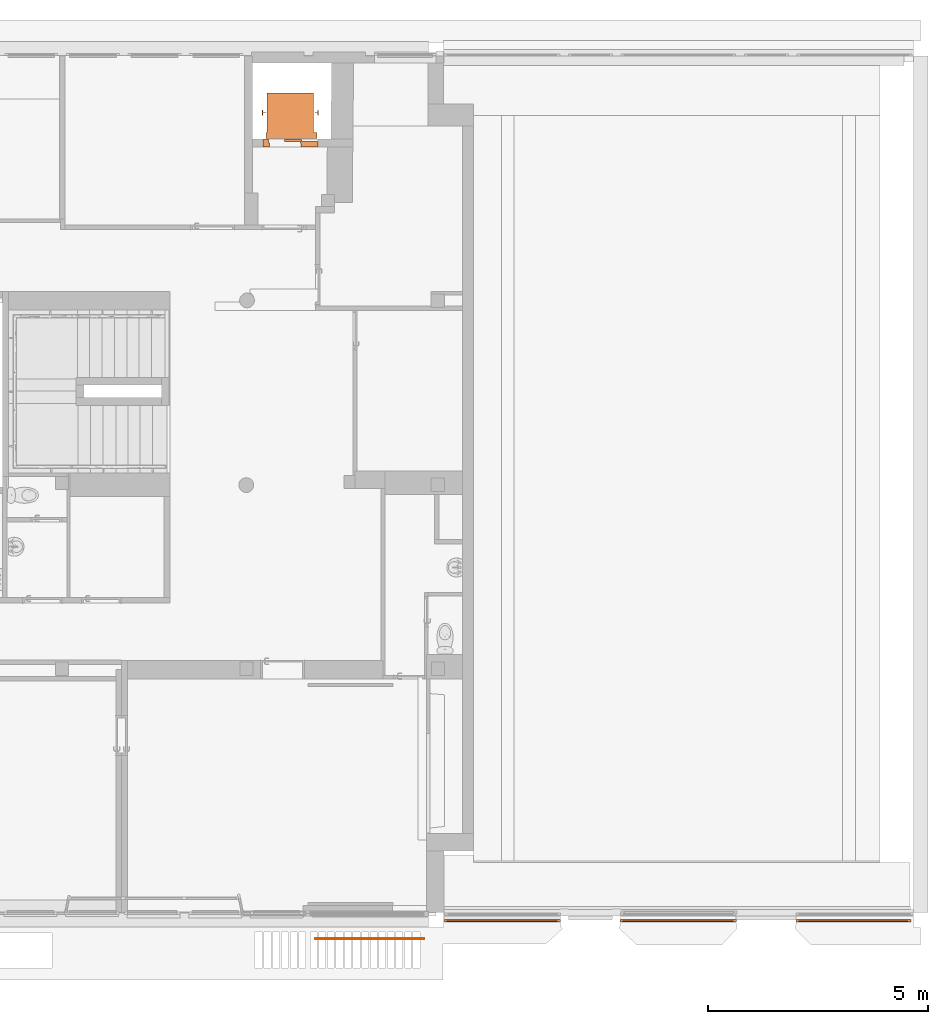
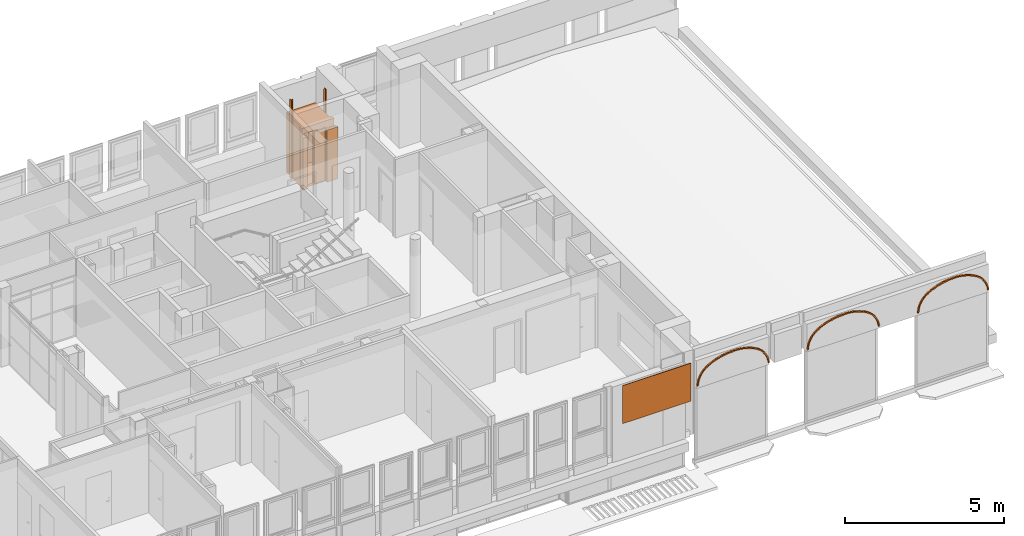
# One storey, part 97 of 97: 3 proxies.
"""IFC4 building model written with IfcOpenShell, lengths in metres."""

from ifc_helpers import new_model, entity, si_unit, converted_unit, derived_unit, direction, frame, origin, place, context, subcontext, project, spatial, indexed_curve, outline, extrude, polygons, source, transform, mapped, material, type_object, type_shapes, element, save


model = new_model("IFC4")

# Units and contexts
model_context = context("Model", 3, precision=1e-05, world=origin(), true_north=direction((6.12303176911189e-17, 1.0)))
body_context = subcontext(model_context, "Body", "Model", "MODEL_VIEW")
ifc_project = project(units=[si_unit("LENGTHUNIT", "METRE"), si_unit("AREAUNIT", "SQUARE_METRE"), si_unit("VOLUMEUNIT", "CUBIC_METRE"), converted_unit("PLANEANGLEUNIT", "DEGREE", entity("IfcRatioMeasure", 0.0174532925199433), si_unit("PLANEANGLEUNIT", "RADIAN"), dimensions=[0, 0, 0, 0, 0, 0, 0]), si_unit("MASSUNIT", "GRAM", prefix="KILO"), derived_unit("MASSDENSITYUNIT", [(si_unit("MASSUNIT", "GRAM", prefix="KILO"), 1), (si_unit("LENGTHUNIT", "METRE"), -3)]), derived_unit("MOMENTOFINERTIAUNIT", [(si_unit("LENGTHUNIT", "METRE"), 4)]), si_unit("TIMEUNIT", "SECOND"), si_unit("FREQUENCYUNIT", "HERTZ"), si_unit("THERMODYNAMICTEMPERATUREUNIT", "DEGREE_CELSIUS"), derived_unit("THERMALTRANSMITTANCEUNIT", [(si_unit("MASSUNIT", "GRAM", prefix="KILO"), 1), (si_unit("THERMODYNAMICTEMPERATUREUNIT", "KELVIN"), -1), (si_unit("TIMEUNIT", "SECOND"), -3)]), derived_unit("VOLUMETRICFLOWRATEUNIT", [(si_unit("LENGTHUNIT", "METRE"), 3), (si_unit("TIMEUNIT", "SECOND"), -1)]), si_unit("ELECTRICCURRENTUNIT", "AMPERE"), si_unit("ELECTRICVOLTAGEUNIT", "VOLT"), si_unit("POWERUNIT", "WATT"), si_unit("FORCEUNIT", "NEWTON", prefix="KILO"), si_unit("ILLUMINANCEUNIT", "LUX"), si_unit("LUMINOUSFLUXUNIT", "LUMEN"), si_unit("LUMINOUSINTENSITYUNIT", "CANDELA"), derived_unit("USERDEFINED", [(si_unit("MASSUNIT", "GRAM", prefix="KILO"), -1), (si_unit("LENGTHUNIT", "METRE"), -2), (si_unit("TIMEUNIT", "SECOND"), 3), (si_unit("LUMINOUSFLUXUNIT", "LUMEN"), 1)]), derived_unit("LINEARVELOCITYUNIT", [(si_unit("LENGTHUNIT", "METRE"), 1), (si_unit("TIMEUNIT", "SECOND"), -1)]), si_unit("PRESSUREUNIT", "PASCAL"), derived_unit("USERDEFINED", [(si_unit("LENGTHUNIT", "METRE"), -2), (si_unit("MASSUNIT", "GRAM", prefix="KILO"), 1), (si_unit("TIMEUNIT", "SECOND"), -2)]), derived_unit("LINEARFORCEUNIT", [(si_unit("MASSUNIT", "GRAM", prefix="KILO"), 1), (si_unit("LENGTHUNIT", "METRE"), 1), (si_unit("TIMEUNIT", "SECOND"), -2), (si_unit("LENGTHUNIT", "METRE"), -1)]), derived_unit("PLANARFORCEUNIT", [(si_unit("MASSUNIT", "GRAM", prefix="KILO"), 1), (si_unit("LENGTHUNIT", "METRE"), 1), (si_unit("TIMEUNIT", "SECOND"), -2), (si_unit("LENGTHUNIT", "METRE"), -2)])], contexts=[model_context])

# Site, building, storey
site_placement = place(None, origin())
site = spatial("IfcSite", under=ifc_project, at=site_placement, Name="Default", CompositionType="ELEMENT")
building_placement = place(site_placement, origin())
building = spatial("IfcBuilding", under=site, at=building_placement, Name="HOTEL CONSULAIRE BOULOGNE SUR MER", CompositionType="ELEMENT")
storey_placement = place(building_placement, frame((0.0, 0.0, 3.62152697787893)))
storey = spatial("IfcBuildingStorey", under=building, at=storey_placement, Name="Niveau 1", CompositionType="ELEMENT", Elevation=3.62152697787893)

# Proxies
ifc_material_1 = material(Name="<Unnamed>")
building_element_proxy_type_1 = type_object("IfcBuildingElementProxyType", Name="Ascenseur 4 personnes - Mur:1000 x 880mm", PredefinedType="NOTDEFINED", material=ifc_material_1)
shared_shape_1 = source(origin(), body_context, "Body", "Tessellation", [
    polygons([(-0.400000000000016, -1.1400000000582, 2.222), (0.649999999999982, -1.14000000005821, 2.222), (0.649999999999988, -0.235000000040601, 2.222), (0.68100000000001, -0.235000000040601, 2.222), (0.681000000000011, -0.105000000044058, 2.222), (-0.486499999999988, -0.105000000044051, 2.222), (-0.486499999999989, -0.235000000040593, 2.222), (-0.40000000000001, -0.235000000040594, 2.222), (-0.400000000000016, -1.1400000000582, 2.2), (-0.40000000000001, -0.235000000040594, 2.2), (-0.486499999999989, -0.235000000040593, 2.2), (-0.486499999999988, -0.105000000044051, 2.2), (0.681000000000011, -0.105000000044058, 2.2), (0.68100000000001, -0.235000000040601, 2.2), (0.649999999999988, -0.235000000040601, 2.2), (0.649999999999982, -1.14000000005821, 2.2)], [[[8, 1, 2, 3, 4, 5, 6, 7]], [[15, 16, 9, 10, 11, 12, 13, 14]], [[2, 1, 9, 16]], [[4, 3, 15, 14]], [[8, 7, 11, 10]], [[3, 2, 16, 15]], [[5, 4, 14, 13]], [[6, 5, 13, 12]], [[7, 6, 12, 11]], [[1, 8, 10, 9]]], closed=True),
    polygons([(-0.400000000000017, -1.1400000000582, 0.0), (0.64999999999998, -1.14000000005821, 0.0), (0.649999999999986, -0.235000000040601, 0.0), (0.68100000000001, -0.235000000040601, 0.0), (0.681000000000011, -0.105000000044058, 0.0), (-0.486499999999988, -0.105000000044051, 0.0), (-0.486499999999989, -0.235000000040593, 0.0), (-0.400000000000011, -0.235000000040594, 0.0), (-0.400000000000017, -1.1400000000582, -0.09), (-0.400000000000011, -0.235000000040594, -0.09), (-0.486499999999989, -0.235000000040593, -0.09), (-0.486499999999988, -0.105000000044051, -0.09), (0.681000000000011, -0.105000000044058, -0.09), (0.68100000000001, -0.235000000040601, -0.09), (0.649999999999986, -0.235000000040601, -0.09), (0.64999999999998, -1.14000000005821, -0.09)], [[[8, 1, 2, 3, 4, 5, 6, 7]], [[15, 16, 9, 10, 11, 12, 13, 14]], [[2, 1, 9, 16]], [[4, 3, 15, 14]], [[8, 7, 11, 10]], [[3, 2, 16, 15]], [[5, 4, 14, 13]], [[6, 5, 13, 12]], [[7, 6, 12, 11]], [[1, 8, 10, 9]]], closed=True),
    polygons([(-0.400000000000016, -1.1400000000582, 2.2), (0.649999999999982, -1.14000000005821, 2.2), (0.649999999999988, -0.235000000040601, 2.2), (0.68100000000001, -0.235000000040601, 2.2), (0.681000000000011, -0.105000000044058, 2.2), (-0.486499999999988, -0.105000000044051, 2.2), (-0.486499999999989, -0.235000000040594, 2.2), (-0.40000000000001, -0.235000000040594, 2.2), (-0.375000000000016, -1.1150000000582, 2.2), (-0.375000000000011, -0.235000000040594, 2.2), (-0.110300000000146, -0.235000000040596, 2.2), (-0.110300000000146, -0.197000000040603, 2.2), (-0.458122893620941, -0.197000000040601, 2.2), (-0.45812289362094, -0.108958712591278, 2.2), (0.621169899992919, -0.108958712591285, 2.2), (0.621169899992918, -0.192683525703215, 2.2), (0.59999999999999, -0.192683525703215, 2.2), (0.599999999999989, -0.235000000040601, 2.2), (0.624999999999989, -0.235000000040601, 2.2), (0.624999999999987, -0.57250164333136, 2.2), (0.610245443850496, -0.572501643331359, 2.2), (0.610245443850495, -0.802501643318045, 2.2), (0.624999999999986, -0.802501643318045, 2.2), (0.624999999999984, -1.11500000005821, 2.2), (-0.400000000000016, -1.1400000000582, 0.0), (-0.40000000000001, -0.235000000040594, 0.0), (-0.486499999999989, -0.235000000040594, 0.0), (-0.486499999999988, -0.105000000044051, 0.0), (-0.173443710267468, -0.105000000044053, 0.0), (-0.173443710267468, -0.10895871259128, 0.0), (-0.45812289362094, -0.108958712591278, 0.0), (-0.458122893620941, -0.197000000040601, 0.0), (-0.110300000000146, -0.197000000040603, 0.0), (-0.110300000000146, -0.235000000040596, 0.0), (-0.375000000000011, -0.235000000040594, 0.0), (-0.375000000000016, -1.1150000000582, 0.0), (0.624999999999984, -1.11500000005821, 0.0), (0.624999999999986, -0.802501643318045, 0.0), (0.610245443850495, -0.802501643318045, 0.0), (0.610245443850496, -0.572501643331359, 0.0), (0.624999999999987, -0.57250164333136, 0.0), (0.624999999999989, -0.235000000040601, 0.0), (0.599999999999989, -0.235000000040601, 0.0), (0.59999999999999, -0.192683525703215, 0.0), (0.621169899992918, -0.192683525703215, 0.0), (0.621169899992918, -0.105000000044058, 0.0), (0.681000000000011, -0.105000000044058, 0.0), (0.68100000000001, -0.235000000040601, 0.0), (0.649999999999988, -0.235000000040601, 0.0), (0.649999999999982, -1.14000000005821, 0.0), (0.621169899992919, -0.105000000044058, 2.0), (-0.173443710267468, -0.105000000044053, 2.0), (-0.173443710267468, -0.10895871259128, 2.0), (0.621169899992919, -0.108958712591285, 2.0), (0.59999999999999, -0.192683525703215, 2.0)], [[[9, 10, 11, 12, 13, 14, 15, 16, 17, 18, 19, 20, 21, 22, 23, 24], [1, 2, 3, 4, 5, 6, 7, 8]], [[50, 25, 26, 27, 28, 29, 30, 31, 32, 33, 34, 35, 36, 37, 38, 39, 40, 41, 42, 43, 44, 45, 46, 47, 48, 49]], [[51, 54, 53, 52]], [[2, 1, 25, 50]], [[4, 3, 49, 48]], [[8, 7, 27, 26]], [[11, 10, 35, 34]], [[54, 15, 14, 31, 30, 53]], [[19, 18, 43, 42]], [[23, 22, 39, 38]], [[3, 2, 50, 49]], [[5, 4, 48, 47]], [[10, 9, 36, 35]], [[12, 11, 34, 33]], [[14, 13, 32, 31]], [[52, 53, 30, 29]], [[5, 47, 46, 51, 52, 29, 28, 6]], [[13, 12, 33, 32]], [[17, 16, 45, 44, 55]], [[21, 20, 41, 40]], [[9, 24, 37, 36]], [[7, 6, 28, 27]], [[1, 8, 26, 25]], [[54, 51, 46, 45, 16, 15]], [[18, 17, 55, 44, 43]], [[20, 19, 42, 41]], [[22, 21, 40, 39]], [[24, 23, 38, 37]]], closed=True),
    polygons([(-0.497026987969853, -0.693801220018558, 0.0), (-0.500026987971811, -0.75100121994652, 0.0), (-0.513026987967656, -0.75100121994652, 0.0), (-0.513026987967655, -0.624001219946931, 0.0), (-0.500026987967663, -0.624001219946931, 0.0), (-0.497113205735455, -0.681305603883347, 0.0), (-0.432026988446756, -0.681305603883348, 0.0), (-0.432026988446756, -0.693801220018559, 0.0), (-0.497026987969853, -0.693801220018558, 3.0), (-0.432026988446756, -0.693801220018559, 3.0), (-0.432026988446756, -0.681305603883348, 3.0), (-0.497113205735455, -0.681305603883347, 3.0), (-0.500026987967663, -0.624001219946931, 3.0), (-0.513026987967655, -0.624001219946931, 3.0), (-0.513026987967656, -0.75100121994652, 3.0), (-0.500026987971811, -0.75100121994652, 3.0)], [[[8, 1, 2, 3, 4, 5, 6, 7]], [[14, 15, 16, 9, 10, 11, 12, 13]], [[10, 9, 1, 8]], [[16, 15, 3, 2]], [[11, 10, 8, 7]], [[12, 11, 7, 6]], [[14, 13, 5, 4]], [[13, 12, 6, 5]], [[15, 14, 4, 3]], [[9, 16, 2, 1]]], closed=True),
    polygons([(0.750026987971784, -0.751001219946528, 3.0), (0.763026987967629, -0.751001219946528, 3.0), (0.76302698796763, -0.624001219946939, 3.0), (0.750026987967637, -0.624001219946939, 3.0), (0.747113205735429, -0.681305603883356, 3.0), (0.682026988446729, -0.681305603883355, 3.0), (0.682026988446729, -0.693801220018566, 3.0), (0.747026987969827, -0.693801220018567, 3.0), (0.750026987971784, -0.751001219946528, 0.0), (0.747026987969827, -0.693801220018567, 0.0), (0.682026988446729, -0.693801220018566, 0.0), (0.682026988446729, -0.681305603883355, 0.0), (0.747113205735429, -0.681305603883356, 0.0), (0.750026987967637, -0.624001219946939, 0.0), (0.76302698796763, -0.624001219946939, 0.0), (0.763026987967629, -0.751001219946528, 0.0)], [[[7, 8, 1, 2, 3, 4, 5, 6]], [[15, 16, 9, 10, 11, 12, 13, 14]], [[2, 1, 9, 16]], [[8, 7, 11, 10]], [[3, 2, 16, 15]], [[4, 3, 15, 14]], [[6, 5, 13, 12]], [[5, 4, 14, 13]], [[7, 6, 12, 11]], [[1, 8, 10, 9]]], closed=True),
    polygons([(-0.48862205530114, 0.00838938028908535, 0.0), (-0.10262205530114, 0.00838938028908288, 0.0), (-0.10262205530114, -0.0306106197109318, 0.0), (-0.48862205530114, -0.0306106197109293, 0.0), (-0.48862205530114, 0.00838938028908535, 2.0), (-0.48862205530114, -0.0306106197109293, 2.0), (-0.10262205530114, -0.0306106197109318, 2.0), (-0.10262205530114, 0.00838938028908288, 2.0)], [[[2, 3, 4, 1]], [[5, 6, 7, 8]], [[6, 5, 1, 4]], [[7, 6, 4, 3]], [[8, 7, 3, 2]], [[5, 8, 2, 1]]], closed=True),
    polygons([(-0.114830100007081, -0.144000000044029, 2.0), (0.271169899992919, -0.144000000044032, 2.0), (0.271169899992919, -0.108958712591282, 2.0), (-0.114830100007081, -0.108958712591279, 2.0), (-0.114830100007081, -0.144000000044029, 0.0), (-0.114830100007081, -0.108958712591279, 0.0), (0.271169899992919, -0.108958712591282, 0.0), (0.271169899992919, -0.144000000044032, 0.0)], [[[4, 1, 2, 3]], [[7, 8, 5, 6]], [[2, 1, 5, 8]], [[3, 2, 8, 7]], [[4, 3, 7, 6]], [[1, 4, 6, 5]]], closed=True),
    polygons([(-0.448622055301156, -0.190989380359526, 0.0), (-0.448622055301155, -0.149389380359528, 0.0), (-0.0626220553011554, -0.14938938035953, 0.0), (-0.0626220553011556, -0.190989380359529, 0.0), (-0.448622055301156, -0.190989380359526, 2.0), (-0.0626220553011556, -0.190989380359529, 2.0), (-0.0626220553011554, -0.14938938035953, 2.0), (-0.448622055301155, -0.149389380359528, 2.0)], [[[3, 4, 1, 2]], [[8, 5, 6, 7]], [[6, 5, 1, 4]], [[7, 6, 4, 3]], [[8, 7, 3, 2]], [[5, 8, 2, 1]]], closed=True),
    polygons([(-0.124830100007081, -0.0750000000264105, 0.0), (-0.124830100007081, -0.0360000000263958, 0.0), (0.261169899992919, -0.0360000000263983, 0.0), (0.261169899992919, -0.075000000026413, 0.0), (-0.124830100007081, -0.0750000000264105, 2.0), (0.261169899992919, -0.075000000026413, 2.0), (0.261169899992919, -0.0360000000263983, 2.0), (-0.124830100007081, -0.0360000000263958, 2.0)], [[[3, 4, 1, 2]], [[8, 5, 6, 7]], [[6, 5, 1, 4]], [[7, 6, 4, 3]], [[8, 7, 3, 2]], [[5, 8, 2, 1]]], closed=True),
    polygons([(0.599999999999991, 0.00499999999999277, 0.0), (0.599999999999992, 0.0900000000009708, 0.0), (0.750000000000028, 0.0900000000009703, 0.0), (0.750000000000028, -0.075000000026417, 0.0), (0.621169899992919, -0.0750000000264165, 0.0), (0.621169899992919, 0.0049999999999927, 0.0), (0.599999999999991, 0.00499999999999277, 2.0), (0.621169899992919, 0.0049999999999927, 2.0), (0.621169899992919, -0.0750000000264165, 2.0), (0.750000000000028, -0.075000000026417, 2.0), (0.750000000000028, 0.0900000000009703, 2.0), (0.599999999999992, 0.0900000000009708, 2.0)], [[[6, 1, 2, 3, 4, 5]], [[10, 11, 12, 7, 8, 9]], [[8, 7, 1, 6]], [[10, 9, 5, 4]], [[9, 8, 6, 5]], [[7, 12, 2, 1]], [[11, 10, 4, 3]], [[12, 11, 3, 2]]], closed=True),
    polygons([(-0.114979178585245, 0.0899999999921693, 2.0), (-0.505006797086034, 0.0900000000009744, 2.0), (-0.505006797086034, 0.0144785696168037, 2.0), (-0.114979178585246, 0.0144785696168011, 2.0), (-0.114979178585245, 0.0899999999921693, 0.0), (-0.114979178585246, 0.0144785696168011, 0.0), (-0.505006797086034, 0.0144785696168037, 0.0), (-0.505006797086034, 0.0900000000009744, 0.0)], [[[4, 1, 2, 3]], [[7, 8, 5, 6]], [[2, 1, 5, 8]], [[3, 2, 8, 7]], [[4, 3, 7, 6]], [[1, 4, 6, 5]]], closed=True),
])
type_shapes(building_element_proxy_type_1, [shared_shape_1])
proxy_1_placement = place(storey_placement, frame((8.28998026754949, -12.0607913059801, 0.0), z_axis=(0.0, 0.0, 1.0), x_axis=(-1.0, 0.0, 0.0)))
element("IfcBuildingElementProxy", 1, at=proxy_1_placement, inside=storey, type_object=building_element_proxy_type_1, Name="Ascenseur 4 personnes - Mur:1000 x 880mm", ObjectType="Ascenseur 4 personnes - Mur:1000 x 880mm", PredefinedType="NOTDEFINED", context=body_context, shape_type="MappedRepresentation", body=[
    mapped(shared_shape_1, transform((0.0, 0.0, 0.0), scale=1.0)),
])
ifc_material_2 = material(Name="peinture bleu")
building_element_proxy_type_2 = type_object("IfcBuildingElementProxyType", Name="demi cercle decoratif:demi cercle decoratif", PredefinedType="NOTDEFINED", material=ifc_material_2)
shared_shape_2 = source(origin(), body_context, "Body", "SweptSolid", [
    extrude(outline(indexed_curve([(1.27333765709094, -0.444147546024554), (1.32364586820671, -0.444147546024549), (1.31104823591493, -0.362169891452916), (1.29117038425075, -0.281647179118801), (1.26417158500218, -0.203224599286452), (1.2302681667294, -0.127530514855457), (1.18973178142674, -0.0551714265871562), (1.1428872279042, 0.0132728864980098), (1.09010984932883, 0.0772540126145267), (1.03182252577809, 0.136259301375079), (0.968492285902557, 0.189815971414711), (0.90062656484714, 0.237494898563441), (0.819301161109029, 0.285926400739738), (0.735171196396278, 0.329303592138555), (0.648550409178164, 0.367464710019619), (0.559761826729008, 0.400267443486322), (0.469136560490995, 0.427589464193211), (0.37701257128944, 0.449328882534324), (0.283733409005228, 0.465404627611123), (0.18964693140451, 0.47575674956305), (0.0951040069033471, 0.480346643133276), (0.000457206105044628, 0.479157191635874), (-0.095302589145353, 0.477950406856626), (-0.190856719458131, 0.47156269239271), (-0.285925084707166, 0.460012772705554), (-0.380229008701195, 0.443334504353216), (-0.473492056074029, 0.421576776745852), (-0.565440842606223, 0.394803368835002), (-0.65580583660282, 0.363092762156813), (-0.74432214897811, 0.326537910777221), (-0.830730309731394, 0.285245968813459), (-0.914777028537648, 0.239337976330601), (-0.983875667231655, 0.194161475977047), (-1.04790799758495, 0.142051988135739), (-1.10618128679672, 0.0835732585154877), (-1.15806510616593, 0.0193579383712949), (-1.20299815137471, -0.0498992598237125), (-1.24049431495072, -0.123449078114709), (-1.27014794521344, -0.200495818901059), (-1.29163823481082, -0.280205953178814), (-1.30473269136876, -0.361717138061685), (-1.30928965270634, -0.444147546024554), (-1.25928938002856, -0.444147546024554), (-1.25500459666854, -0.366926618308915), (-1.24272360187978, -0.290568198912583), (-1.22257920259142, -0.215898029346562), (-1.19478924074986, -0.143723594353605), (-1.15965423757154, -0.0748253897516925), (-1.11755414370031, -0.00994848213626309), (-1.0689442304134, 0.0502055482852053), (-1.01435016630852, 0.104986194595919), (-0.95436233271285, 0.153801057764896), (-0.889629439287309, 0.196122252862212), (-0.807830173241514, 0.240798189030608), (-0.723729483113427, 0.280974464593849), (-0.637574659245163, 0.316532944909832), (-0.549619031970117, 0.347369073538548), (-0.460121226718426, 0.373392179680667), (-0.369344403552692, 0.394525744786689), (-0.27755548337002, 0.410707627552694), (-0.185024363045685, 0.421890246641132), (-0.0920231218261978, 0.428040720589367), (0.00117477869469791, 0.429140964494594), (0.0929111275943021, 0.430377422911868), (0.184551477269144, 0.426003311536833), (0.275753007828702, 0.416034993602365), (0.366174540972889, 0.400509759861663), (0.455477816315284, 0.379485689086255), (0.543328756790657, 0.353041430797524), (0.629398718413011, 0.321275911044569), (0.713365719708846, 0.28430796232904), (0.794915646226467, 0.242275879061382), (0.873743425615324, 0.195336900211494), (0.93751868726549, 0.150561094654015), (0.997065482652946, 0.100298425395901), (1.051913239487, 0.0449460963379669), (1.10162851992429, -0.0150584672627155), (1.14581844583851, -0.0792410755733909), (1.18413380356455, -0.147094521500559), (1.2162718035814, -0.218082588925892), (1.2419784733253, -0.291644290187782), (1.26105066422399, -0.367198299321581), (1.27333765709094, -0.444147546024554)], self_intersect=False)), frame((1.31088492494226, 0.0, 0.445742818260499), z_axis=(0.0, -1.0, 0.0), x_axis=(1.0, 0.0, 0.0)), (0.0, 0.0, -1.0), 0.0392639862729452),
    extrude(outline(indexed_curve([(1.2565653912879, -0.444180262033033), (1.30687360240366, -0.444180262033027), (1.29427597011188, -0.362202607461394), (1.27439811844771, -0.281679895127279), (1.24739931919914, -0.203257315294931), (1.21349590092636, -0.127563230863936), (1.1729595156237, -0.0552041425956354), (1.12611496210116, 0.0132401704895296), (1.07333758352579, 0.0772212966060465), (1.01505025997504, 0.136226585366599), (0.951720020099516, 0.189783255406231), (0.8838542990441, 0.237462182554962), (0.802846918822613, 0.285717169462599), (0.719055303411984, 0.328957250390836), (0.632789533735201, 0.367022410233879), (0.544368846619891, 0.399771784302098), (0.454120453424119, 0.427084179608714), (0.362378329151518, 0.448858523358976), (0.269481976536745, 0.465014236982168), (0.175775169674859, 0.475491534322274), (0.081604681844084, 0.480251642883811), (-0.0126809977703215, 0.479276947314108), (-0.104765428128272, 0.476316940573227), (-0.196570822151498, 0.46856622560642), (-0.287848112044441, 0.456045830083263), (-0.378349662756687, 0.438789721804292), (-0.467829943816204, 0.416844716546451), (-0.556046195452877, 0.390270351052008), (-0.642759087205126, 0.359138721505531), (-0.727733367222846, 0.323534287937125), (-0.810738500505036, 0.283553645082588), (-0.891549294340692, 0.239305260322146), (-0.960647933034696, 0.194128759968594), (-1.024680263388, 0.142019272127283), (-1.08295355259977, 0.0835405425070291), (-1.13483737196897, 0.0193252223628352), (-1.17977041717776, -0.0499319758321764), (-1.21726658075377, -0.123481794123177), (-1.24692021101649, -0.200528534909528), (-1.26841050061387, -0.280238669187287), (-1.28150495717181, -0.361749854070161), (-1.28606191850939, -0.444180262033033), (-1.23606164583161, -0.444180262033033), (-1.23177686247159, -0.366959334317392), (-1.21949586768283, -0.290600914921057), (-1.19935146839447, -0.215930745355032), (-1.17156150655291, -0.143756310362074), (-1.13642650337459, -0.0748581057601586), (-1.09432640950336, -0.00998119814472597), (-1.04571649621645, 0.0501728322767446), (-0.991122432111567, 0.104953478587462), (-0.931134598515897, 0.153768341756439), (-0.866401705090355, 0.196089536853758), (-0.787798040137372, 0.23912681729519), (-0.707058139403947, 0.278008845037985), (-0.624401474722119, 0.312629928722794), (-0.540052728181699, 0.342895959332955), (-0.454241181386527, 0.368724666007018), (-0.367200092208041, 0.390045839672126), (-0.279166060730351, 0.406801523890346), (-0.190378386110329, 0.418946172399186), (-0.101078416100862, 0.426446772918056), (-0.0115088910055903, 0.429282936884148), (0.0798213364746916, 0.430277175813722), (0.171042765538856, 0.425711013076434), (0.261817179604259, 0.415601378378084), (0.351808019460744, 0.399985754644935), (0.440681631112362, 0.378922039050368), (0.528108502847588, 0.352488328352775), (0.61376448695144, 0.320782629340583), (0.697332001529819, 0.283922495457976), (0.778501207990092, 0.242044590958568), (0.85697115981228, 0.195304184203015), (0.920746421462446, 0.150528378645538), (0.980293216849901, 0.100265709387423), (1.03514097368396, 0.0449133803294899), (1.08485625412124, -0.0150911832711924), (1.12904618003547, -0.0792737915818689), (1.16736153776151, -0.147127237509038), (1.19949953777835, -0.21811530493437), (1.22520620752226, -0.291677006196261), (1.24427839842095, -0.36723101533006), (1.2565653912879, -0.444180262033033)], self_intersect=False)), frame((9.28911528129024, 0.0, 0.445775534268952), z_axis=(0.0, -1.0, 0.0), x_axis=(1.0, 0.0, 0.0)), (0.0, 0.0, -1.0), 0.0392639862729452),
    extrude(outline(indexed_curve([(1.27333765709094, -0.444147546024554), (1.32364586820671, -0.444147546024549), (1.31104823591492, -0.362169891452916), (1.29117038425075, -0.281647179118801), (1.26417158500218, -0.203224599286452), (1.2302681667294, -0.127530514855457), (1.18973178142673, -0.0551714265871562), (1.1428872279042, 0.0132728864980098), (1.09010984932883, 0.0772540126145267), (1.03182252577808, 0.136259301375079), (0.968492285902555, 0.189815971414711), (0.900626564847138, 0.237494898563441), (0.819301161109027, 0.285926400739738), (0.735171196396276, 0.329303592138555), (0.648550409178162, 0.367464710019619), (0.559761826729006, 0.400267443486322), (0.469136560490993, 0.427589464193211), (0.377012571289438, 0.449328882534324), (0.283733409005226, 0.465404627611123), (0.189646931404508, 0.47575674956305), (0.0951040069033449, 0.480346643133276), (0.000457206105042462, 0.479157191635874), (-0.0953025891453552, 0.477950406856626), (-0.190856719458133, 0.47156269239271), (-0.285925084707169, 0.460012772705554), (-0.380229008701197, 0.443334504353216), (-0.473492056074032, 0.421576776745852), (-0.565440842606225, 0.394803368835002), (-0.655805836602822, 0.363092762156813), (-0.744322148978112, 0.326537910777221), (-0.830730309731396, 0.285245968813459), (-0.914777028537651, 0.239337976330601), (-0.983875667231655, 0.194161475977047), (-1.04790799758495, 0.142051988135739), (-1.10618128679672, 0.0835732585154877), (-1.15806510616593, 0.0193579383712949), (-1.20299815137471, -0.0498992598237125), (-1.24049431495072, -0.123449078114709), (-1.27014794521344, -0.200495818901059), (-1.29163823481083, -0.280205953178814), (-1.30473269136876, -0.361717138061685), (-1.30928965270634, -0.444147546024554), (-1.25928938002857, -0.444147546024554), (-1.25500459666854, -0.366926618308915), (-1.24272360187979, -0.290568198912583), (-1.22257920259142, -0.215898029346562), (-1.19478924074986, -0.143723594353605), (-1.15965423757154, -0.0748253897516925), (-1.11755414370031, -0.00994848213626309), (-1.0689442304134, 0.0502055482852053), (-1.01435016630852, 0.104986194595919), (-0.954362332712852, 0.153801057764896), (-0.889629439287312, 0.196122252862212), (-0.807830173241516, 0.240798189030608), (-0.723729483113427, 0.280974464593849), (-0.637574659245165, 0.316532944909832), (-0.54961903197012, 0.347369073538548), (-0.460121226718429, 0.373392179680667), (-0.369344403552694, 0.394525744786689), (-0.277555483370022, 0.410707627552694), (-0.185024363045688, 0.421890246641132), (-0.0920231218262, 0.428040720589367), (0.00117477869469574, 0.429140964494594), (0.0929111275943, 0.430377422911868), (0.184551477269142, 0.426003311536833), (0.275753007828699, 0.416034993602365), (0.366174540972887, 0.400509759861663), (0.455477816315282, 0.379485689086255), (0.543328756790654, 0.353041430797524), (0.629398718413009, 0.321275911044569), (0.713365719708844, 0.28430796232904), (0.794915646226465, 0.242275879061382), (0.873743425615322, 0.195336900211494), (0.937518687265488, 0.150561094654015), (0.997065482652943, 0.100298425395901), (1.051913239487, 0.0449460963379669), (1.10162851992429, -0.0150584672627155), (1.14581844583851, -0.0792410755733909), (1.18413380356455, -0.147094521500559), (1.21627180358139, -0.218082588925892), (1.2419784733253, -0.291644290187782), (1.26105066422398, -0.367198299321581), (1.27333765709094, -0.444147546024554)], self_intersect=False)), frame((5.30788492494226, 0.0, 0.445742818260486), z_axis=(0.0, -1.0, 0.0), x_axis=(1.0, 0.0, 0.0)), (0.0, 0.0, -1.0), 0.0392639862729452),
])
type_shapes(building_element_proxy_type_2, [shared_shape_2])
proxy_2_placement = place(storey_placement, frame((11.6730751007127, -29.7633310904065, 1.70344025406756)))
element("IfcBuildingElementProxy", 2, at=proxy_2_placement, inside=storey, type_object=building_element_proxy_type_2, material=ifc_material_2, Name="demi cercle decoratif:demi cercle decoratif", ObjectType="demi cercle decoratif:demi cercle decoratif", PredefinedType="NOTDEFINED", context=body_context, shape_type="MappedRepresentation", body=[
    mapped(shared_shape_2, transform((0.0, 0.0, 0.0), scale=1.0)),
])
ifc_material_3 = material(Name="Finition Peinture - Blanc satiné", Category="Peinture")
building_element_proxy_type_3 = type_object("IfcBuildingElementProxyType", Name="Elements de façade 2:Elements de façade 2", PredefinedType="NOTDEFINED", material=ifc_material_3)
shared_shape_3 = source(origin(), body_context, "Body", "SweptSolid", [
    extrude(outline(indexed_curve([(-1.23842273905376, -0.0100000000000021), (1.23842273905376, -0.0100000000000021), (1.23842273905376, 0.00999999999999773), (-1.23842273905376, 0.00999999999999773), (-1.23842273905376, -0.0100000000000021)], self_intersect=False)), frame((1.23842273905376, 0.00999999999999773, 0.0), z_axis=(0.0, 0.0, 1.0), x_axis=(-1.0, 0.0, 0.0)), (0.0, 0.0, 1.0), 1.45997248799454),
])
type_shapes(building_element_proxy_type_3, [shared_shape_3])
proxy_3_placement = place(storey_placement, frame((8.72823689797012, -30.1670920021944, 1.55050053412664)))
element("IfcBuildingElementProxy", 3, at=proxy_3_placement, inside=storey, type_object=building_element_proxy_type_3, material=ifc_material_3, Name="Elements de façade 2:Elements de façade 2", ObjectType="Elements de façade 2:Elements de façade 2", PredefinedType="NOTDEFINED", context=body_context, shape_type="MappedRepresentation", body=[
    mapped(shared_shape_3, transform((0.0, 0.0, 0.0), scale=1.0)),
])

save(model, "model.ifc")
